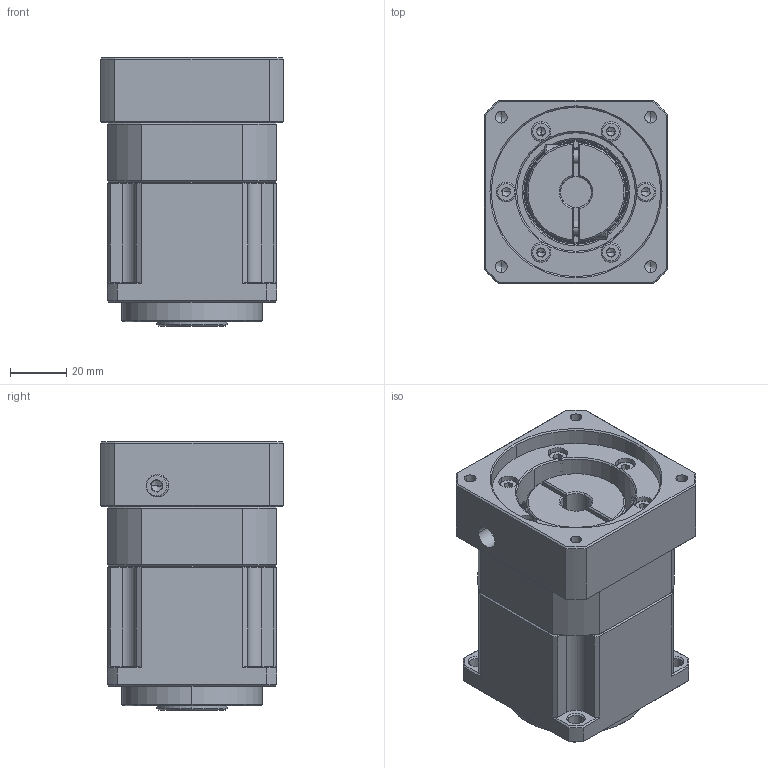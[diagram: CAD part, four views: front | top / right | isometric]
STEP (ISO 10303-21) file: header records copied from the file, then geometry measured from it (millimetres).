
FILE_DESCRIPTION (( 'STEP AP214' ), '1' );
FILE_NAME ('ZPB060-K16-L1-P1-11-60-75-M5.step', '2024-04-24T07:34:38', ( '' ), ( '' ), 'SwSTEP 2.0', 'SolidWorks 2016', '' );
FILE_SCHEMA (( 'AUTOMOTIVE_DESIGN' ));
Length unit declared in the file: millimetre
Products named in the file (1): ZPB060-K16-L1-P1-11-60-75-M5
Bounding box: 65 x 65 x 95 mm (x, y, z)
Volume: 261173.6 mm3; surface area: 73923.3 mm2
Topology: 16 solids, 25 shells, 1795 faces, 5050 edges, 3260 vertices
Faces by surface type: plane 910, bspline 315, cylinder 265, cone 163, torus 96, sphere 46
Entity records: 91686 total; most frequent: CARTESIAN_POINT 28409, ORIENTED_EDGE 9766, DIRECTION 7770, EDGE_CURVE 4883, VERTEX_POINT 3191, VECTOR 2834, LINE 2834, AXIS2_PLACEMENT_3D 2468
